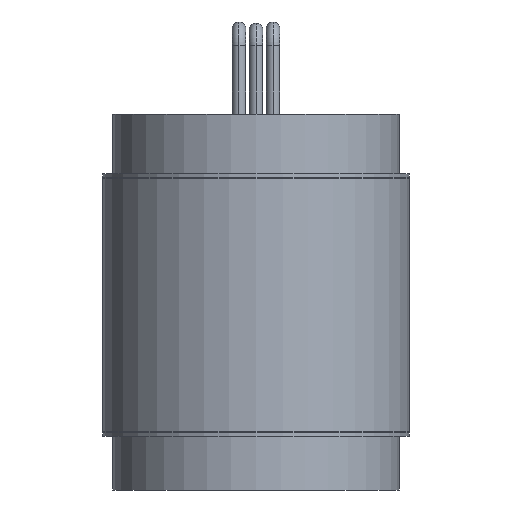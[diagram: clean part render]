
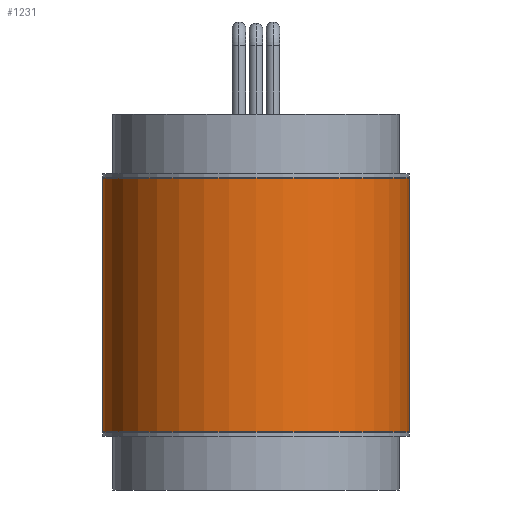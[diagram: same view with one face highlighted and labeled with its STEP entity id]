
A CAD part, front view. The second image highlights one B-rep face of the part: STEP entity #1231.
In plain terms, the highlighted cylindrical face has radius 22.86 mm (diameter 45.72 mm), a partial arc.
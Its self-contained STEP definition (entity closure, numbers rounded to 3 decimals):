
#21 = AXIS2_PLACEMENT_3D ( 'NONE', #714, #1700, #1867 ) ;
#41 = EDGE_CURVE ( 'NONE', #1881, #414, #1689, .T. ) ;
#241 = ORIENTED_EDGE ( 'NONE', *, *, #1386, .F. ) ;
#264 = VERTEX_POINT ( 'NONE', #889 ) ;
#409 = DIRECTION ( 'NONE',  ( 0., 0., -1. ) ) ;
#414 = VERTEX_POINT ( 'NONE', #1242 ) ;
#685 = CARTESIAN_POINT ( 'NONE',  ( 0., 0., 18.872 ) ) ;
#714 = CARTESIAN_POINT ( 'NONE',  ( 0., 0., 18.872 ) ) ;
#758 = FACE_OUTER_BOUND ( 'NONE', #1690, .T. ) ;
#769 = VECTOR ( 'NONE', #1671, 1000. ) ;
#840 = EDGE_CURVE ( 'NONE', #946, #264, #1901, .T. ) ;
#849 = DIRECTION ( 'NONE',  ( 0., 0., -1. ) ) ;
#860 = AXIS2_PLACEMENT_3D ( 'NONE', #685, #849, #1340 ) ;
#889 = CARTESIAN_POINT ( 'NONE',  ( 22.86, 0., -18.872 ) ) ;
#922 = ORIENTED_EDGE ( 'NONE', *, *, #41, .T. ) ;
#946 = VERTEX_POINT ( 'NONE', #1428 ) ;
#1045 = ORIENTED_EDGE ( 'NONE', *, *, #840, .F. ) ;
#1217 = DIRECTION ( 'NONE',  ( 0., 0., 1. ) ) ;
#1231 = ADVANCED_FACE ( 'NONE', ( #758 ), #1569, .T. ) ;
#1242 = CARTESIAN_POINT ( 'NONE',  ( -22.86, 0., -18.872 ) ) ;
#1244 = CIRCLE ( 'NONE', #2078, 22.86 ) ;
#1284 = VECTOR ( 'NONE', #409, 1000. ) ;
#1307 = CARTESIAN_POINT ( 'NONE',  ( -22.86, 0., 18.872 ) ) ;
#1340 = DIRECTION ( 'NONE',  ( -1., 0., 0. ) ) ;
#1386 = EDGE_CURVE ( 'NONE', #1881, #946, #1625, .T. ) ;
#1428 = CARTESIAN_POINT ( 'NONE',  ( 22.86, 0., 18.872 ) ) ;
#1463 = EDGE_CURVE ( 'NONE', #414, #264, #1244, .T. ) ;
#1559 = CARTESIAN_POINT ( 'NONE',  ( 22.86, 0., 18.872 ) ) ;
#1564 = DIRECTION ( 'NONE',  ( 1., 0., 0. ) ) ;
#1569 = CYLINDRICAL_SURFACE ( 'NONE', #860, 22.86 ) ;
#1573 = CARTESIAN_POINT ( 'NONE',  ( 0., 0., -18.872 ) ) ;
#1625 = CIRCLE ( 'NONE', #21, 22.86 ) ;
#1671 = DIRECTION ( 'NONE',  ( 0., 0., -1. ) ) ;
#1689 = LINE ( 'NONE', #1307, #769 ) ;
#1690 = EDGE_LOOP ( 'NONE', ( #1045, #241, #922, #2120 ) ) ;
#1700 = DIRECTION ( 'NONE',  ( 0., 0., 1. ) ) ;
#1822 = CARTESIAN_POINT ( 'NONE',  ( -22.86, 0., 18.872 ) ) ;
#1867 = DIRECTION ( 'NONE',  ( 1., 0., 0. ) ) ;
#1881 = VERTEX_POINT ( 'NONE', #1822 ) ;
#1901 = LINE ( 'NONE', #1559, #1284 ) ;
#2078 = AXIS2_PLACEMENT_3D ( 'NONE', #1573, #1217, #1564 ) ;
#2120 = ORIENTED_EDGE ( 'NONE', *, *, #1463, .T. ) ;
